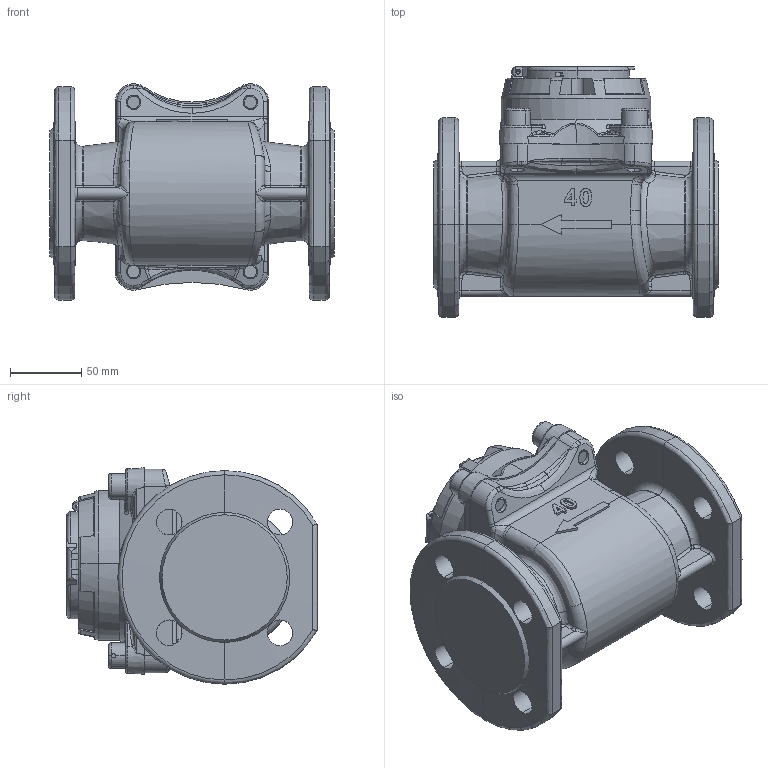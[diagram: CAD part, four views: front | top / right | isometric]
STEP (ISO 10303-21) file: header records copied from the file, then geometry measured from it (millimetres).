
FILE_DESCRIPTION (( 'STEP AP214' ), '1' );
FILE_NAME ('MWN IP65 NKO.STEP', '2025-07-09T10:15:48', ( '' ), ( '' ), 'SwSTEP 2.0', 'SolidWorks 2019', '' );
FILE_SCHEMA (( 'AUTOMOTIVE_DESIGN' ));
Length unit declared in the file: millimetre
Products named in the file (1): MWN IP65 NKO
Bounding box: 200 x 175.8 x 151.97 mm (x, y, z)
Volume: 2212948.7 mm3; surface area: 210579.7 mm2
Topology: 2 solids, 19 shells, 1282 faces, 3265 edges, 2027 vertices
Faces by surface type: plane 502, bspline 334, cylinder 234, cone 108, torus 91, sphere 13
Entity records: 69102 total; most frequent: CARTESIAN_POINT 26803, ORIENTED_EDGE 6436, DIRECTION 5068, EDGE_CURVE 3218, VERTEX_POINT 2027, AXIS2_PLACEMENT_3D 1747, LINE 1574, VECTOR 1574
